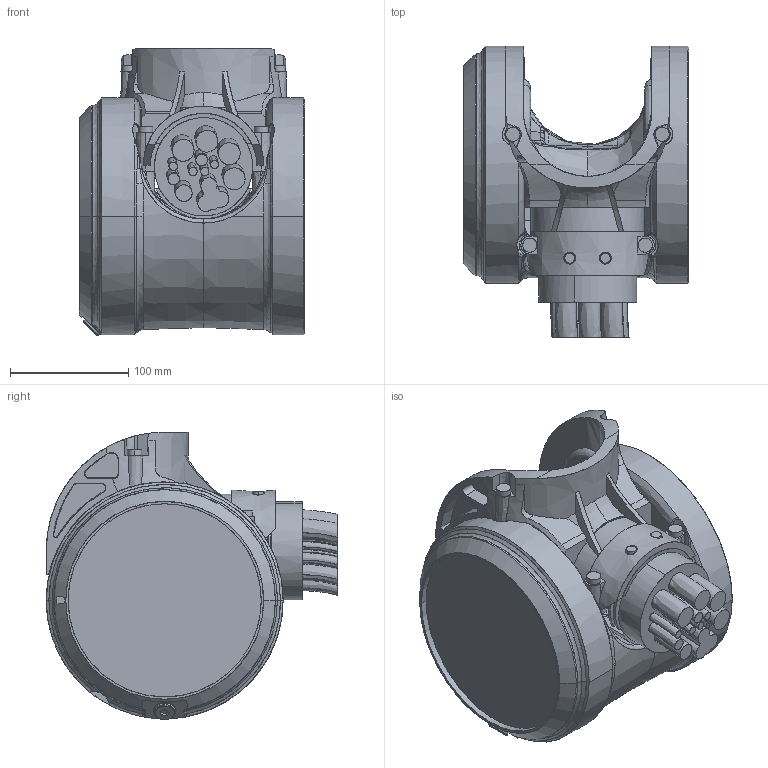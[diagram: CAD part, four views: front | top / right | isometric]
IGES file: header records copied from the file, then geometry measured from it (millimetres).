
Start section: SolidWorks IGES file using analytic representation for surfaces
Global section: file name: C:\Data\SAP_DOC\LW\IRB 6720\IRB6720-LID-SW_140kg-320_OC_01_SW_J\IRB6720-LID-SW_140kg-320_OC_01_IGES_J\IRB6720-LID_140kg-320_OC_00_LINK06_CABLE.igs; native system: SolidWorks 2024; preprocessor: SolidWorks 2024; author: SEJOVAS3; date: 260610.141101; units: millimetre
Bounding box: 190.5 x 246.09 x 242.9 mm (x, y, z)
Surface area: 348624.3 mm2 (no closed solid volume)
Topology: 0 solids, 0 shells, 752 faces, 10145 edges, 10123 vertices
Faces by surface type: bspline 451, revolution 301
